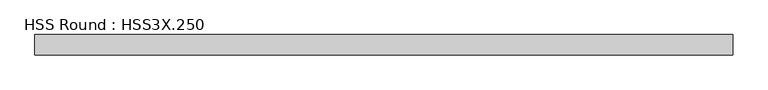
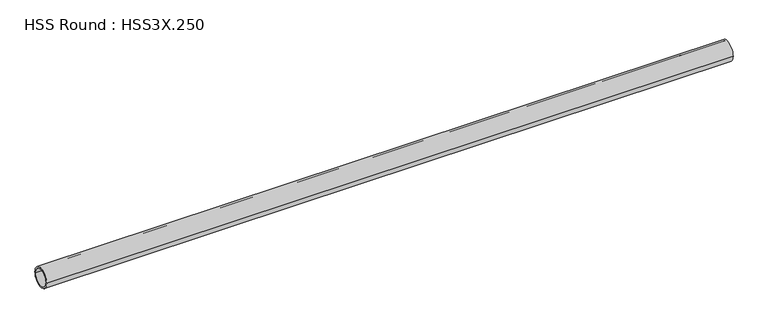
"""IFC4 building model written with IfcOpenShell, lengths in millimetres: member geometry, HSS Round : HSS3X.250."""

import ifcopenshell
import ifcopenshell.guid

model = None  # the IFC model being written
_history = None  # IfcOwnerHistory: only IFC2X3 demands one
_inside = {}  # id of a spatial element -> (the spatial element, [elements in it])
_under = {}  # id of a project, library or spatial element -> (it, [spatial elements below it])
_declared = {}  # id of a project -> (the project, [libraries it declares])
_typed = {}  # id of a type object -> (the type object, [elements of that type])
_made_of = {}  # id of a material, layer set ... -> (it, [elements and type objects made of it])


def new_model(schema):
    """Start an empty IFC model of exactly this schema.

    Asked for "IFC4X3", IfcOpenShell would pick the latest addendum, in which some entities
    have other attributes; the version numbers below select the first issue.
    IFC2X3 requires an IfcOwnerHistory on every rooted entity: one is made here for all.
    """
    global model, _history
    if schema == "IFC4X3":
        model = ifcopenshell.file(schema_version=(4, 3, 0, 0))
    else:
        model = ifcopenshell.file(schema=schema)
    _inside.clear()
    _under.clear()
    _declared.clear()
    _typed.clear()
    _made_of.clear()
    _history = None
    if model.schema == "IFC2X3":
        org = make("IfcOrganization", Name="unknown")
        user = make(
            "IfcPersonAndOrganization",
            ThePerson=make("IfcPerson", FamilyName="unknown"),
            TheOrganization=org,
        )
        app = make(
            "IfcApplication",
            ApplicationDeveloper=org,
            Version="unknown",
            ApplicationFullName="unknown",
            ApplicationIdentifier="unknown",
        )
        _history = make(
            "IfcOwnerHistory",
            OwningUser=user,
            OwningApplication=app,
            ChangeAction="ADDED",
            CreationDate=0,
        )
    return model


def make(cls, **values):
    """One entity of the class cls with the attributes given. An attribute that is None is left unset."""
    return model.create_entity(
        cls, **{name: value for name, value in values.items() if value is not None}
    )


def rooted(cls, **values):
    """An entity with a GlobalId (a new one), such as an element, a storey or a relation."""
    return make(cls, GlobalId=ifcopenshell.guid.new(), OwnerHistory=_history, **values)


def si_unit(unit_type, name, prefix=None):
    """IfcSIUnit, for example si_unit("LENGTHUNIT", "METRE", prefix="MILLI")."""
    return make("IfcSIUnit", UnitType=unit_type, Prefix=prefix, Name=name)


def assignment(units):
    """IfcUnitAssignment: the units of a project."""
    return None if units is None else make("IfcUnitAssignment", Units=units)


def point(xyz):
    """IfcCartesianPoint."""
    return None if xyz is None else make("IfcCartesianPoint", Coordinates=xyz)


def direction(xyz):
    """IfcDirection."""
    return None if xyz is None else make("IfcDirection", DirectionRatios=xyz)


def frame(location, z_axis=None, x_axis=None):
    """IfcAxis2Placement3D, a coordinate frame: its origin and axes. An axis left out is left unset."""
    return make(
        "IfcAxis2Placement3D",
        Location=point(location),
        Axis=direction(z_axis),
        RefDirection=direction(x_axis),
    )


def frame_2d(location, x_axis=None):
    """IfcAxis2Placement2D, a coordinate frame in the plane: its origin and x axis."""
    return make(
        "IfcAxis2Placement2D", Location=point(location), RefDirection=direction(x_axis)
    )


def origin():
    """The frame at (0, 0, 0) with its axes left unset."""
    return frame((0.0, 0.0, 0.0))


def origin_2d():
    """The frame at (0, 0) in the plane with its x axis left unset."""
    return frame_2d((0.0, 0.0))


def place(relative_to, where):
    """IfcLocalPlacement: puts the frame where relative to a parent placement (None: the world)."""
    return make(
        "IfcLocalPlacement", PlacementRelTo=relative_to, RelativePlacement=where
    )


def context(
    kind, dimensions, precision=None, world=None, true_north=None, identifier=None
):
    """IfcGeometricRepresentationContext, for example the 3D "Model" context."""
    return make(
        "IfcGeometricRepresentationContext",
        ContextIdentifier=identifier,
        ContextType=kind,
        CoordinateSpaceDimension=dimensions,
        Precision=precision,
        WorldCoordinateSystem=world,
        TrueNorth=true_north,
    )


def project(units=None, contexts=None):
    """IfcProject with its units and contexts."""
    return rooted(
        "IfcProject",
        Name="project",
        RepresentationContexts=contexts,
        UnitsInContext=assignment(units),
    )


def spatial(cls, under=None, at=None, **own):
    """A site, building, storey or space (cls), placed at a placement, below another one or the project."""
    s = rooted(cls, ObjectPlacement=at, **own)
    if under is not None:
        _under.setdefault(under.id(), (under, []))[1].append(s)
    return s


def circle_curve(where, radius):
    """IfcCircle in the frame where."""
    return make("IfcCircle", Position=where, Radius=radius)


def trimmed(basis, trim1, trim2, sense, master):
    """IfcTrimmedCurve: the piece of a basis curve between two trims."""
    return make(
        "IfcTrimmedCurve",
        BasisCurve=basis,
        Trim1=trim1,
        Trim2=trim2,
        SenseAgreement=sense,
        MasterRepresentation=master,
    )


def segment(curve, same_sense, transition):
    """IfcCompositeCurveSegment."""
    return make(
        "IfcCompositeCurveSegment",
        Transition=transition,
        SameSense=same_sense,
        ParentCurve=curve,
    )


def composite_curve(segments, self_intersect=None):
    """IfcCompositeCurve: segments joined end to end."""
    return make("IfcCompositeCurve", Segments=segments, SelfIntersect=self_intersect)


def outline(outer, holes=None, kind="AREA"):
    """IfcArbitraryClosedProfileDef: a profile drawn as a closed curve; with holes, ...WithVoids."""
    if holes is None:
        return make("IfcArbitraryClosedProfileDef", ProfileType=kind, OuterCurve=outer)
    return make(
        "IfcArbitraryProfileDefWithVoids",
        ProfileType=kind,
        OuterCurve=outer,
        InnerCurves=holes,
    )


def extrude(swept, where, along, depth):
    """IfcExtrudedAreaSolid: the profile swept, set in the frame where, extruded along a direction by depth."""
    return make(
        "IfcExtrudedAreaSolid",
        SweptArea=swept,
        Position=where,
        ExtrudedDirection=direction(along),
        Depth=depth,
    )


def shape(context_of_items, identifier, shape_type, items):
    """IfcShapeRepresentation: the items that make up one representation, for example the "Body"."""
    return make(
        "IfcShapeRepresentation",
        ContextOfItems=context_of_items,
        RepresentationIdentifier=identifier,
        RepresentationType=shape_type,
        Items=items,
    )


def source(mapping_origin, context_of_items, identifier, shape_type, items):
    """IfcRepresentationMap: a shape defined once, which mapped items show again and again."""
    return make(
        "IfcRepresentationMap",
        MappingOrigin=mapping_origin,
        MappedRepresentation=shape(context_of_items, identifier, shape_type, items),
    )


def transform(
    local_origin,
    x_axis=None,
    y_axis=None,
    z_axis=None,
    scale=None,
    scale2=None,
    scale3=None,
    uniform=True,
):
    """IfcCartesianTransformationOperator3D, or its non-uniform kind. x_axis, y_axis, z_axis: its Axis1, 2, 3."""
    if uniform:
        return make(
            "IfcCartesianTransformationOperator3D",
            Axis1=direction(x_axis),
            Axis2=direction(y_axis),
            LocalOrigin=point(local_origin),
            Scale=scale,
            Axis3=direction(z_axis),
        )
    return make(
        "IfcCartesianTransformationOperator3DnonUniform",
        Axis1=direction(x_axis),
        Axis2=direction(y_axis),
        LocalOrigin=point(local_origin),
        Scale=scale,
        Axis3=direction(z_axis),
        Scale2=scale2,
        Scale3=scale3,
    )


def mapped(mapping_source, mapping_target):
    """IfcMappedItem: shows the shape of a source again, moved by a transform."""
    return make(
        "IfcMappedItem", MappingSource=mapping_source, MappingTarget=mapping_target
    )


def made_of(thing, what):
    """Note that an element or type object is made of a material, layer set ...; save() writes the relation."""
    if what is not None:
        _made_of.setdefault(what.id(), (what, []))[1].append(thing)
    return thing


def element(
    cls,
    number,
    at=None,
    inside=None,
    cuts=None,
    type_object=None,
    material=None,
    context=None,
    identifier="Body",
    shape_type=None,
    held_by="IfcProductDefinitionShape",
    body=None,
    shapes=None,
    **own,
):
    """One element of the class cls, such as IfcWall. Its Tag is "e" and its number.

    at: its placement. inside: the storey or other place that contains it. cuts: it is an
    opening in that element (IfcRelVoidsElement). A single representation is given by context,
    identifier, shape_type and body (its items); several are given by shapes. held_by: the class
    of the entity that holds the representations. save() writes the other relations.
    """
    e = rooted(cls, Tag="e%d" % number, ObjectPlacement=at, **own)
    if body is not None:
        shapes = [shape(context, identifier, shape_type, body)]
    if shapes is not None:
        e.Representation = make(held_by, Representations=shapes)
    if inside is not None:
        _inside.setdefault(inside.id(), (inside, []))[1].append(e)
    if cuts is not None:
        rooted(
            "IfcRelVoidsElement", RelatingBuildingElement=cuts, RelatedOpeningElement=e
        )
    if type_object is not None:
        _typed.setdefault(type_object.id(), (type_object, []))[1].append(e)
    return made_of(e, material)


def aggregate(whole, parts):
    """IfcRelAggregates: a whole, such as a stair, and the parts it consists of."""
    return rooted("IfcRelAggregates", RelatingObject=whole, RelatedObjects=parts)


def save(model, path):
    """Write the relations noted so far, then the file.

    IfcRelAggregates (storeys below a building ...), IfcRelContainedInSpatialStructure (elements
    in a storey), IfcRelDefinesByType, IfcRelAssociatesMaterial and IfcRelDeclares: one each for
    every whole, place, type object, material and project.
    """
    for whole, parts in _under.values():
        aggregate(whole, parts)
    for where, things in _inside.values():
        rooted(
            "IfcRelContainedInSpatialStructure",
            RelatedElements=things,
            RelatingStructure=where,
        )
    for kind, things in _typed.values():
        rooted("IfcRelDefinesByType", RelatedObjects=things, RelatingType=kind)
    for what, things in _made_of.values():
        rooted("IfcRelAssociatesMaterial", RelatedObjects=things, RelatingMaterial=what)
    for by, libraries in _declared.values():
        rooted("IfcRelDeclares", RelatingContext=by, RelatedDefinitions=libraries)
    model.write(path)


def hss_round_hss3x_250_f9a469b0(model_context):
    return source(origin(), model_context, "Body", "SweptSolid", [
        extrude(outline(composite_curve([segment(trimmed(circle_curve(origin_2d(), 38.1), [point((-38.1, 0.0))], [point((38.1, 0.0))], False, "CARTESIAN"), True, "CONTINUOUS"), segment(trimmed(circle_curve(origin_2d(), 38.1), [point((38.1, 0.0))], [point((-38.1, 0.0))], False, "CARTESIAN"), True, "CONTINUOUS")], self_intersect=False), holes=[composite_curve([segment(trimmed(circle_curve(origin_2d(), 31.75), [point((31.75, 0.0))], [point((-31.75, 0.0))], True, "CARTESIAN"), True, "CONTINUOUS"), segment(trimmed(circle_curve(origin_2d(), 31.75), [point((-31.75, 0.0))], [point((31.75, 0.0))], True, "CARTESIAN"), True, "CONTINUOUS")], self_intersect=False)]), frame((-1265.1089169, 0.0, 0.0), z_axis=(1.0, 0.0, 0.0), x_axis=(0.0, 1.0, 0.0)), (0.0, 0.0, 1.0), 2588.1786224),
    ])


if __name__ == "__main__":
    model = new_model("IFC4")
    model_context = context("Model", 3, world=origin())
    ifc_project = project(units=[si_unit("LENGTHUNIT", "METRE", prefix="MILLI")], contexts=[model_context])
    site = spatial("IfcSite", under=ifc_project)
    building = spatial("IfcBuilding", under=site)
    placement = place(None, origin())
    hss_round_hss3x_250_shape = hss_round_hss3x_250_f9a469b0(model_context)
    element("IfcMember", 1, ObjectType="HSS Round : HSS3X.250", at=placement, inside=building, context=model_context, shape_type="MappedRepresentation", body=[
        mapped(hss_round_hss3x_250_shape, transform((0.0, 0.0, 0.0), x_axis=(1.0, 0.0, 0.0), y_axis=(0.0, 1.0, 0.0), z_axis=(0.0, 0.0, 1.0))),
    ])
    save(model, "model.ifc")
